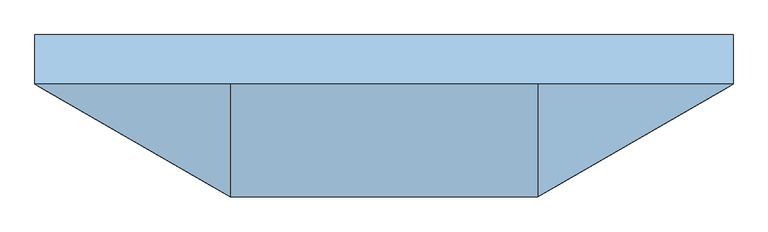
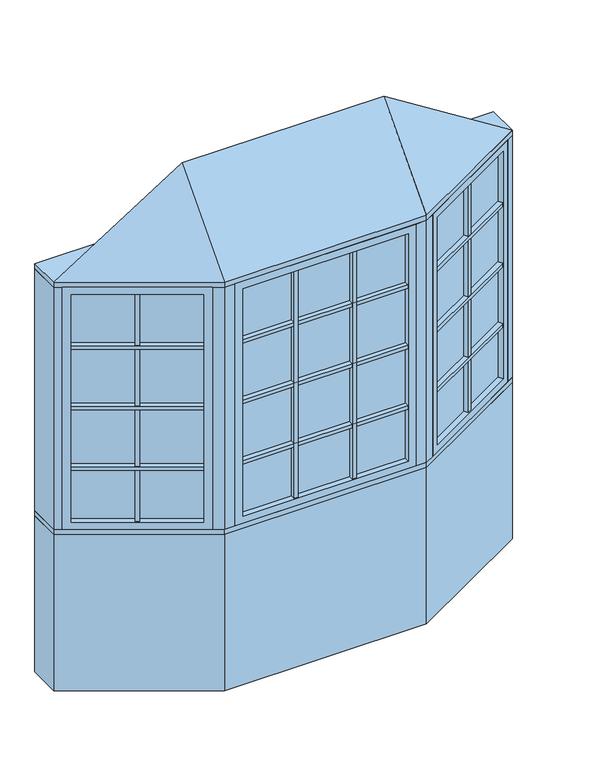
"""IFC4 building model written with IfcOpenShell, lengths in millimetres: window geometry, Pollard_Windows_Tudor Casement Bows and Bays : AML-BAY 30 AFR0612-10-600_GC."""

from ifc_helpers import new_model, si_unit, frame, origin, origin_with_axes, place, context, project, spatial, polyline, outline, extrude, faceted_brep, source, transform, mapped, element, save


def window_d12ae702(model_context):
    return source(origin(), model_context, "Body", "SolidModel", [
        extrude(outline(polyline([(546.881999, -376.6297343), (535.881999, -357.5771754), (1002.1135794, -88.3982469), (1013.1135794, -107.4508058), (546.881999, -376.6297343)])), frame((0.0, 0.0, 1390.998), z_axis=(0.0, 0.0, 1.0), x_axis=(1.0, 0.0, 0.0)), (0.0, 0.0, 1.0), 18.0),
        extrude(outline(polyline([(533.341999, -353.1777664), (522.341999, -334.1252075), (988.5735794, -64.946279), (999.5735794, -83.9988379), (533.341999, -353.1777664)])), frame((0.0, 0.0, 1390.998), z_axis=(0.0, 0.0, 1.0), x_axis=(1.0, 0.0, 0.0)), (0.0, 0.0, 1.0), 18.0),
        extrude(outline(polyline([(546.881999, -376.6297343), (535.881999, -357.5771754), (1002.1135794, -88.3982469), (1013.1135794, -107.4508058), (546.881999, -376.6297343)])), frame((0.0, 0.0, 1090.998), z_axis=(0.0, 0.0, 1.0), x_axis=(1.0, 0.0, 0.0)), (0.0, 0.0, 1.0), 18.0),
        extrude(outline(polyline([(533.341999, -353.1777664), (522.341999, -334.1252075), (988.5735794, -64.946279), (999.5735794, -83.9988379), (533.341999, -353.1777664)])), frame((0.0, 0.0, 1090.998), z_axis=(0.0, 0.0, 1.0), x_axis=(1.0, 0.0, 0.0)), (0.0, 0.0, 1.0), 18.0),
        extrude(outline(polyline([(546.881999, -376.6297343), (535.881999, -357.5771754), (1002.1135794, -88.3982469), (1013.1135794, -107.4508058), (546.881999, -376.6297343)])), frame((0.0, 0.0, 1390.998), z_axis=(0.0, 0.0, 1.0), x_axis=(1.0, 0.0, 0.0)), (0.0, 0.0, 1.0), 18.0),
        extrude(outline(polyline([(533.341999, -353.1777664), (522.341999, -334.1252075), (988.5735794, -64.946279), (999.5735794, -83.9988379), (533.341999, -353.1777664)])), frame((0.0, 0.0, 1390.998), z_axis=(0.0, 0.0, 1.0), x_axis=(1.0, 0.0, 0.0)), (0.0, 0.0, 1.0), 18.0),
        extrude(outline(polyline([(546.881999, -376.6297343), (535.881999, -357.5771754), (1002.1135794, -88.3982469), (1013.1135794, -107.4508058), (546.881999, -376.6297343)])), frame((0.0, 0.0, 1390.998), z_axis=(0.0, 0.0, 1.0), x_axis=(1.0, 0.0, 0.0)), (0.0, 0.0, 1.0), 18.0),
        extrude(outline(polyline([(533.341999, -353.1777664), (522.341999, -334.1252075), (988.5735794, -64.946279), (999.5735794, -83.9988379), (533.341999, -353.1777664)])), frame((0.0, 0.0, 1390.998), z_axis=(0.0, 0.0, 1.0), x_axis=(1.0, 0.0, 0.0)), (0.0, 0.0, 1.0), 18.0),
        extrude(outline(polyline([(546.881999, -376.6297343), (535.881999, -357.5771754), (1002.1135794, -88.3982469), (1013.1135794, -107.4508058), (546.881999, -376.6297343)])), frame((0.0, 0.0, 1690.998), z_axis=(0.0, 0.0, 1.0), x_axis=(1.0, 0.0, 0.0)), (0.0, 0.0, 1.0), 18.0),
        extrude(outline(polyline([(533.341999, -353.1777664), (522.341999, -334.1252075), (988.5735794, -64.946279), (999.5735794, -83.9988379), (533.341999, -353.1777664)])), frame((0.0, 0.0, 1690.998), z_axis=(0.0, 0.0, 1.0), x_axis=(1.0, 0.0, 0.0)), (0.0, 0.0, 1.0), 18.0),
        extrude(outline(polyline([(776.7920178, -218.4877112), (787.7920178, -237.5402701), (772.2035606, -246.5402701), (761.2035606, -227.4877112), (776.7920178, -218.4877112)])), frame((0.0, 0.0, 835.8628), z_axis=(0.0, 0.0, 1.0), x_axis=(1.0, 0.0, 0.0)), (0.0, 0.0, 1.0), 1128.2704),
        extrude(outline(polyline([(774.2520178, -214.0883021), (758.6635606, -223.0883021), (747.6635606, -204.0357432), (763.2520178, -195.0357432), (774.2520178, -214.0883021)])), frame((0.0, 0.0, 835.8628), z_axis=(0.0, 0.0, 1.0), x_axis=(1.0, 0.0, 0.0)), (0.0, 0.0, 1.0), 1128.2704),
        extrude(outline(polyline([(1013.112102, -82.0482469), (524.8834764, -363.9271754), (522.3434764, -359.5277664), (1010.572102, -77.6488379), (1013.112102, -82.0482469)])), frame((0.0, 0.0, 823.1628), z_axis=(0.0, 0.0, 1.0), x_axis=(1.0, 0.0, 0.0)), (0.0, 0.0, 1.0), 1153.6704),
        faceted_brep([(1002.1135794, -88.3982469, 835.8628), (1014.8135794, -110.3952922, 835.8628), (1014.8135794, -110.3952922, 1964.1332), (1002.1135794, -88.3982469, 1964.1332), (1010.572102, -77.6488379, 823.1628), (1013.112102, -82.0482469, 823.1628), (1013.112102, -82.0482469, 1976.8332), (1010.572102, -77.6488379, 1976.8332), (986.8735794, -62.0017926, 835.8628), (999.5735794, -83.9988379, 835.8628), (999.5735794, -83.9988379, 1964.1332), (986.8735794, -62.0017926, 1964.1332), (1045.8734073, -92.4628922, 799.998), (1017.9334073, -44.0693926, 799.998), (1017.9334073, -44.0693926, 1999.998), (1045.8734073, -92.4628922, 1999.998), (548.581999, -379.5742207, 1964.1332), (535.881999, -357.5771754, 1964.1332), (524.8834764, -363.9271754, 1976.8332), (522.3434764, -359.5277664, 1976.8332), (533.341999, -353.1777664, 1964.1332), (520.641999, -331.1807211, 1964.1332), (489.5821711, -349.1131211, 1999.998), (517.5221711, -397.5066207, 1999.998), (548.581999, -379.5742207, 835.8628), (535.881999, -357.5771754, 835.8628), (524.8834764, -363.9271754, 823.1628), (522.3434764, -359.5277664, 823.1628), (533.341999, -353.1777664, 835.8628), (520.641999, -331.1807211, 835.8628), (489.5821711, -349.1131211, 799.998), (517.5221711, -397.5066207, 799.998)], [[[0, 1, 2, 3]], [[4, 5, 6, 7]], [[8, 9, 10, 11]], [[12, 13, 14, 15]], [[3, 2, 16, 17]], [[7, 6, 18, 19]], [[11, 10, 20, 21]], [[15, 14, 22, 23]], [[17, 16, 24, 25]], [[19, 18, 26, 27]], [[21, 20, 28, 29]], [[23, 22, 30, 31]], [[25, 24, 1, 0]], [[5, 26, 18, 6], [3, 17, 25, 0]], [[27, 26, 5, 4]], [[7, 19, 27, 4], [9, 28, 20, 10]], [[29, 28, 9, 8]], [[13, 30, 22, 14], [11, 21, 29, 8]], [[31, 30, 13, 12]], [[15, 23, 31, 12], [1, 24, 16, 2]]]),
        extrude(outline(polyline([(145.6855003, -397.1066207), (145.6855003, -419.1066207), (127.6855003, -419.1066207), (127.6855003, -397.1066207), (145.6855003, -397.1066207)])), frame((0.0, 0.0, 835.8628), z_axis=(0.0, 0.0, 1.0), x_axis=(1.0, 0.0, 0.0)), (0.0, 0.0, 1.0), 1128.2704),
        extrude(outline(polyline([(145.6855003, -392.0266207), (127.6855003, -392.0266207), (127.6855003, -370.0266207), (145.6855003, -370.0266207), (145.6855003, -392.0266207)])), frame((0.0, 0.0, 835.8628), z_axis=(0.0, 0.0, 1.0), x_axis=(1.0, 0.0, 0.0)), (0.0, 0.0, 1.0), 1128.2704),
        extrude(outline(polyline([(-127.6855003, -397.1066207), (-127.6855003, -419.1066207), (-145.6855003, -419.1066207), (-145.6855003, -397.1066207), (-127.6855003, -397.1066207)])), frame((0.0, 0.0, 835.8628), z_axis=(0.0, 0.0, 1.0), x_axis=(1.0, 0.0, 0.0)), (0.0, 0.0, 1.0), 1128.2704),
        extrude(outline(polyline([(-127.6855003, -392.0266207), (-145.6855003, -392.0266207), (-145.6855003, -370.0266207), (-127.6855003, -370.0266207), (-127.6855003, -392.0266207)])), frame((0.0, 0.0, 835.8628), z_axis=(0.0, 0.0, 1.0), x_axis=(1.0, 0.0, 0.0)), (0.0, 0.0, 1.0), 1128.2704),
        extrude(outline(polyline([(-388.3561009, -419.1066207), (-388.3561009, -397.1066207), (388.3561009, -397.1066207), (388.3561009, -419.1066207), (-388.3561009, -419.1066207)])), frame((0.0, 0.0, 1090.998), z_axis=(0.0, 0.0, 1.0), x_axis=(1.0, 0.0, 0.0)), (0.0, 0.0, 1.0), 18.0),
        extrude(outline(polyline([(-388.3561009, -392.0266207), (-388.3561009, -370.0266207), (388.3561009, -370.0266207), (388.3561009, -392.0266207), (-388.3561009, -392.0266207)])), frame((0.0, 0.0, 1090.998), z_axis=(0.0, 0.0, 1.0), x_axis=(1.0, 0.0, 0.0)), (0.0, 0.0, 1.0), 18.0),
        extrude(outline(polyline([(-388.3561009, -419.1066207), (-388.3561009, -397.1066207), (388.3561009, -397.1066207), (388.3561009, -419.1066207), (-388.3561009, -419.1066207)])), frame((0.0, 0.0, 1390.998), z_axis=(0.0, 0.0, 1.0), x_axis=(1.0, 0.0, 0.0)), (0.0, 0.0, 1.0), 18.0),
        extrude(outline(polyline([(-388.3561009, -392.0266207), (-388.3561009, -370.0266207), (388.3561009, -370.0266207), (388.3561009, -392.0266207), (-388.3561009, -392.0266207)])), frame((0.0, 0.0, 1390.998), z_axis=(0.0, 0.0, 1.0), x_axis=(1.0, 0.0, 0.0)), (0.0, 0.0, 1.0), 18.0),
        extrude(outline(polyline([(-388.3561009, -419.1066207), (-388.3561009, -397.1066207), (388.3561009, -397.1066207), (388.3561009, -419.1066207), (-388.3561009, -419.1066207)])), frame((0.0, 0.0, 1390.998), z_axis=(0.0, 0.0, 1.0), x_axis=(1.0, 0.0, 0.0)), (0.0, 0.0, 1.0), 18.0),
        extrude(outline(polyline([(-388.3561009, -392.0266207), (-388.3561009, -370.0266207), (388.3561009, -370.0266207), (388.3561009, -392.0266207), (-388.3561009, -392.0266207)])), frame((0.0, 0.0, 1390.998), z_axis=(0.0, 0.0, 1.0), x_axis=(1.0, 0.0, 0.0)), (0.0, 0.0, 1.0), 18.0),
        extrude(outline(polyline([(-388.3561009, -419.1066207), (-388.3561009, -397.1066207), (388.3561009, -397.1066207), (388.3561009, -419.1066207), (-388.3561009, -419.1066207)])), frame((0.0, 0.0, 1390.998), z_axis=(0.0, 0.0, 1.0), x_axis=(1.0, 0.0, 0.0)), (0.0, 0.0, 1.0), 18.0),
        extrude(outline(polyline([(-388.3561009, -392.0266207), (-388.3561009, -370.0266207), (388.3561009, -370.0266207), (388.3561009, -392.0266207), (-388.3561009, -392.0266207)])), frame((0.0, 0.0, 1390.998), z_axis=(0.0, 0.0, 1.0), x_axis=(1.0, 0.0, 0.0)), (0.0, 0.0, 1.0), 18.0),
        extrude(outline(polyline([(-1013.1135794, -107.4508058), (-1002.1135794, -88.3982469), (-535.881999, -357.5771754), (-546.881999, -376.6297343), (-1013.1135794, -107.4508058)])), frame((0.0, 0.0, 1090.998), z_axis=(0.0, 0.0, 1.0), x_axis=(1.0, 0.0, 0.0)), (0.0, 0.0, 1.0), 18.0),
        extrude(outline(polyline([(-999.5735794, -83.9988379), (-988.5735794, -64.946279), (-522.341999, -334.1252075), (-533.341999, -353.1777664), (-999.5735794, -83.9988379)])), frame((0.0, 0.0, 1090.998), z_axis=(0.0, 0.0, 1.0), x_axis=(1.0, 0.0, 0.0)), (0.0, 0.0, 1.0), 18.0),
        extrude(outline(polyline([(-1013.1135794, -107.4508058), (-1002.1135794, -88.3982469), (-535.881999, -357.5771754), (-546.881999, -376.6297343), (-1013.1135794, -107.4508058)])), frame((0.0, 0.0, 1390.998), z_axis=(0.0, 0.0, 1.0), x_axis=(1.0, 0.0, 0.0)), (0.0, 0.0, 1.0), 18.0),
        extrude(outline(polyline([(-999.5735794, -83.9988379), (-988.5735794, -64.946279), (-522.341999, -334.1252075), (-533.341999, -353.1777664), (-999.5735794, -83.9988379)])), frame((0.0, 0.0, 1390.998), z_axis=(0.0, 0.0, 1.0), x_axis=(1.0, 0.0, 0.0)), (0.0, 0.0, 1.0), 18.0),
        extrude(outline(polyline([(-1013.1135794, -107.4508058), (-1002.1135794, -88.3982469), (-535.881999, -357.5771754), (-546.881999, -376.6297343), (-1013.1135794, -107.4508058)])), frame((0.0, 0.0, 1390.998), z_axis=(0.0, 0.0, 1.0), x_axis=(1.0, 0.0, 0.0)), (0.0, 0.0, 1.0), 18.0),
        extrude(outline(polyline([(-999.5735794, -83.9988379), (-988.5735794, -64.946279), (-522.341999, -334.1252075), (-533.341999, -353.1777664), (-999.5735794, -83.9988379)])), frame((0.0, 0.0, 1390.998), z_axis=(0.0, 0.0, 1.0), x_axis=(1.0, 0.0, 0.0)), (0.0, 0.0, 1.0), 18.0),
        extrude(outline(polyline([(-1013.1135794, -107.4508058), (-1002.1135794, -88.3982469), (-535.881999, -357.5771754), (-546.881999, -376.6297343), (-1013.1135794, -107.4508058)])), frame((0.0, 0.0, 1390.998), z_axis=(0.0, 0.0, 1.0), x_axis=(1.0, 0.0, 0.0)), (0.0, 0.0, 1.0), 18.0),
        extrude(outline(polyline([(-999.5735794, -83.9988379), (-988.5735794, -64.946279), (-522.341999, -334.1252075), (-533.341999, -353.1777664), (-999.5735794, -83.9988379)])), frame((0.0, 0.0, 1390.998), z_axis=(0.0, 0.0, 1.0), x_axis=(1.0, 0.0, 0.0)), (0.0, 0.0, 1.0), 18.0),
        extrude(outline(polyline([(-1013.1135794, -107.4508058), (-1002.1135794, -88.3982469), (-535.881999, -357.5771754), (-546.881999, -376.6297343), (-1013.1135794, -107.4508058)])), frame((0.0, 0.0, 1690.998), z_axis=(0.0, 0.0, 1.0), x_axis=(1.0, 0.0, 0.0)), (0.0, 0.0, 1.0), 18.0),
        extrude(outline(polyline([(-999.5735794, -83.9988379), (-988.5735794, -64.946279), (-522.341999, -334.1252075), (-533.341999, -353.1777664), (-999.5735794, -83.9988379)])), frame((0.0, 0.0, 1690.998), z_axis=(0.0, 0.0, 1.0), x_axis=(1.0, 0.0, 0.0)), (0.0, 0.0, 1.0), 18.0),
        extrude(outline(polyline([(-388.3561009, -419.1066207), (-388.3561009, -397.1066207), (388.3561009, -397.1066207), (388.3561009, -419.1066207), (-388.3561009, -419.1066207)])), frame((0.0, 0.0, 1690.998), z_axis=(0.0, 0.0, 1.0), x_axis=(1.0, 0.0, 0.0)), (0.0, 0.0, 1.0), 18.0),
        extrude(outline(polyline([(-388.3561009, -392.0266207), (-388.3561009, -370.0266207), (388.3561009, -370.0266207), (388.3561009, -392.0266207), (-388.3561009, -392.0266207)])), frame((0.0, 0.0, 1690.998), z_axis=(0.0, 0.0, 1.0), x_axis=(1.0, 0.0, 0.0)), (0.0, 0.0, 1.0), 18.0),
        extrude(outline(polyline([(-761.2035606, -227.4877112), (-772.2035606, -246.5402701), (-787.7920178, -237.5402701), (-776.7920178, -218.4877112), (-761.2035606, -227.4877112)])), frame((0.0, 0.0, 835.8628), z_axis=(0.0, 0.0, 1.0), x_axis=(1.0, 0.0, 0.0)), (0.0, 0.0, 1.0), 1128.2704),
        extrude(outline(polyline([(-758.6635606, -223.0883021), (-774.2520178, -214.0883021), (-763.2520178, -195.0357432), (-747.6635606, -204.0357432), (-758.6635606, -223.0883021)])), frame((0.0, 0.0, 835.8628), z_axis=(0.0, 0.0, 1.0), x_axis=(1.0, 0.0, 0.0)), (0.0, 0.0, 1.0), 1128.2704),
        extrude(outline(polyline([(-524.8834764, -363.9271754), (-1013.112102, -82.0482469), (-1010.572102, -77.6488379), (-522.3434764, -359.5277664), (-524.8834764, -363.9271754)])), frame((0.0, 0.0, 823.1628), z_axis=(0.0, 0.0, 1.0), x_axis=(1.0, 0.0, 0.0)), (0.0, 0.0, 1.0), 1153.6704),
        faceted_brep([(-533.341999, -353.1777664, 1964.1332), (-520.641999, -331.1807211, 1964.1332), (-520.641999, -331.1807211, 835.8628), (-533.341999, -353.1777664, 835.8628), (-524.8834764, -363.9271754, 1976.8332), (-522.3434764, -359.5277664, 1976.8332), (-522.3434764, -359.5277664, 823.1628), (-524.8834764, -363.9271754, 823.1628), (-548.581999, -379.5742207, 1964.1332), (-535.881999, -357.5771754, 1964.1332), (-535.881999, -357.5771754, 835.8628), (-548.581999, -379.5742207, 835.8628), (-489.5821711, -349.1131211, 1999.998), (-517.5221711, -397.5066207, 1999.998), (-517.5221711, -397.5066207, 799.998), (-489.5821711, -349.1131211, 799.998), (-986.8735794, -62.0017926, 835.8628), (-999.5735794, -83.9988379, 835.8628), (-1010.572102, -77.6488379, 823.1628), (-1013.112102, -82.0482469, 823.1628), (-1002.1135794, -88.3982469, 835.8628), (-1014.8135794, -110.3952922, 835.8628), (-1045.8734073, -92.4628922, 799.998), (-1017.9334073, -44.0693926, 799.998), (-986.8735794, -62.0017926, 1964.1332), (-999.5735794, -83.9988379, 1964.1332), (-1010.572102, -77.6488379, 1976.8332), (-1013.112102, -82.0482469, 1976.8332), (-1002.1135794, -88.3982469, 1964.1332), (-1014.8135794, -110.3952922, 1964.1332), (-1045.8734073, -92.4628922, 1999.998), (-1017.9334073, -44.0693926, 1999.998)], [[[0, 1, 2, 3]], [[4, 5, 6, 7]], [[8, 9, 10, 11]], [[12, 13, 14, 15]], [[3, 2, 16, 17]], [[7, 6, 18, 19]], [[11, 10, 20, 21]], [[15, 14, 22, 23]], [[17, 16, 24, 25]], [[19, 18, 26, 27]], [[21, 20, 28, 29]], [[23, 22, 30, 31]], [[15, 23, 31, 12], [1, 24, 16, 2]], [[25, 24, 1, 0]], [[5, 26, 18, 6], [3, 17, 25, 0]], [[27, 26, 5, 4]], [[7, 19, 27, 4], [9, 28, 20, 10]], [[29, 28, 9, 8]], [[13, 30, 22, 14], [11, 21, 29, 8]], [[31, 30, 13, 12]]]),
        extrude(outline(polyline([(401.0561009, -397.1066207), (-401.0561009, -397.1066207), (-401.0561009, -392.0266207), (401.0561009, -392.0266207), (401.0561009, -397.1066207)])), frame((0.0, 0.0, 823.1628), z_axis=(0.0, 0.0, 1.0), x_axis=(1.0, 0.0, 0.0)), (0.0, 0.0, 1.0), 1153.6704),
        faceted_brep([(388.3561009, -397.1066207, 835.8628), (388.3561009, -422.5066207, 835.8628), (388.3561009, -422.5066207, 1964.1332), (388.3561009, -397.1066207, 1964.1332), (401.0561009, -392.0266207, 823.1628), (401.0561009, -397.1066207, 823.1628), (401.0561009, -397.1066207, 1976.8332), (401.0561009, -392.0266207, 1976.8332), (388.3561009, -366.6266207, 835.8628), (388.3561009, -392.0266207, 835.8628), (388.3561009, -392.0266207, 1964.1332), (388.3561009, -366.6266207, 1964.1332), (424.2209009, -422.5066207, 799.998), (424.2209009, -366.6266207, 799.998), (424.2209009, -366.6266207, 1999.998), (424.2209009, -422.5066207, 1999.998), (-388.3561009, -422.5066207, 1964.1332), (-388.3561009, -397.1066207, 1964.1332), (-401.0561009, -397.1066207, 1976.8332), (-401.0561009, -392.0266207, 1976.8332), (-388.3561009, -392.0266207, 1964.1332), (-388.3561009, -366.6266207, 1964.1332), (-424.2209009, -366.6266207, 1999.998), (-424.2209009, -422.5066207, 1999.998), (-388.3561009, -422.5066207, 835.8628), (-388.3561009, -397.1066207, 835.8628), (-401.0561009, -397.1066207, 823.1628), (-401.0561009, -392.0266207, 823.1628), (-388.3561009, -392.0266207, 835.8628), (-388.3561009, -366.6266207, 835.8628), (-424.2209009, -366.6266207, 799.998), (-424.2209009, -422.5066207, 799.998)], [[[0, 1, 2, 3]], [[4, 5, 6, 7]], [[8, 9, 10, 11]], [[12, 13, 14, 15]], [[3, 2, 16, 17]], [[7, 6, 18, 19]], [[11, 10, 20, 21]], [[15, 14, 22, 23]], [[17, 16, 24, 25]], [[19, 18, 26, 27]], [[21, 20, 28, 29]], [[23, 22, 30, 31]], [[15, 23, 31, 12], [1, 24, 16, 2]], [[25, 24, 1, 0]], [[5, 26, 18, 6], [3, 17, 25, 0]], [[27, 26, 5, 4]], [[7, 19, 27, 4], [9, 28, 20, 10]], [[29, 28, 9, 8]], [[13, 30, 22, 14], [11, 21, 29, 8]], [[31, 30, 13, 12]]]),
        faceted_brep([(1076.5, -74.7806207, 2025.398), (474.2209009, -422.5066207, 2025.398), (-474.2209009, -422.5066207, 2025.398), (-1076.5, -74.7806207, 2025.398), (-474.2209009, -74.7806207, 2406.398), (474.2209009, -74.7806207, 2406.398)], [[[0, 1, 2, 3]], [[3, 2, 4]], [[2, 1, 5, 4]], [[1, 0, 5]], [[0, 3, 4, 5]]]),
        extrude(outline(polyline([(-1076.5, 77.6193793), (1076.5, 77.6193793), (1076.5, -74.7806207), (474.2209009, -422.5066207), (-474.2209009, -422.5066207), (-1076.5, -74.7806207), (-1076.5, 77.6193793)])), frame((0.0, 0.0, 1999.998), z_axis=(0.0, 0.0, 1.0), x_axis=(1.0, 0.0, 0.0)), (0.0, 0.0, 1.0), 25.4),
        extrude(outline(polyline([(-1076.5, -74.7806207), (-1076.5, 77.6193793), (-1035.6645431, 77.6193793), (-1035.6645431, -74.7806207), (-1045.8734073, -92.4628922), (-1076.5, -74.7806207)])), frame((0.0, 0.0, 799.998), z_axis=(0.0, 0.0, 1.0), x_axis=(1.0, 0.0, 0.0)), (0.0, 0.0, 1.0), 1200.0),
        extrude(outline(polyline([(1076.5, 77.6193793), (1076.5, -74.7806207), (1045.8734073, -92.4628922), (1035.6645431, -74.7806207), (1035.6645431, 77.6193793), (1076.5, 77.6193793)])), frame((0.0, 0.0, 799.998), z_axis=(0.0, 0.0, 1.0), x_axis=(1.0, 0.0, 0.0)), (0.0, 0.0, 1.0), 1200.0),
        extrude(outline(polyline([(474.2209009, -422.5066207), (424.2209009, -422.5066207), (424.2209009, -372.5066207), (460.8234413, -372.5066207), (492.5221711, -354.2053505), (517.5221711, -397.5066207), (474.2209009, -422.5066207)])), frame((0.0, 0.0, 799.998), z_axis=(0.0, 0.0, 1.0), x_axis=(1.0, 0.0, 0.0)), (0.0, 0.0, 1.0), 1200.0),
        extrude(outline(polyline([(-474.2209009, -422.5066207), (-517.5221711, -397.5066207), (-492.5221711, -354.2053505), (-460.8234413, -372.5066207), (-424.2209009, -372.5066207), (-424.2209009, -422.5066207), (-474.2209009, -422.5066207)])), frame((0.0, 0.0, 799.998), z_axis=(0.0, 0.0, 1.0), x_axis=(1.0, 0.0, 0.0)), (0.0, 0.0, 1.0), 1200.0),
        extrude(outline(polyline([(-474.2209009, -422.5066207), (-1076.5, -74.7806207), (-1076.5, 77.6193793), (-1035.6645431, 77.6193793), (-433.385444, -270.1066207), (433.385444, -270.1066207), (1035.6645431, 77.6193793), (1076.5, 77.6193793), (1076.5, -74.7806207), (474.2209009, -422.5066207), (-474.2209009, -422.5066207)])), frame((0.0, 0.0, 774.598), z_axis=(0.0, 0.0, 1.0), x_axis=(1.0, 0.0, 0.0)), (0.0, 0.0, 1.0), 25.4),
        extrude(outline(polyline([(-1076.5, -74.7806207), (-1076.5, 77.6193793), (-1035.6645431, 77.6193793), (-433.385444, -270.1066207), (433.385444, -270.1066207), (1035.6645431, 77.6193793), (1076.5, 77.6193793), (1076.5, -74.7806207), (474.2209009, -422.5066207), (-474.2209009, -422.5066207), (-1076.5, -74.7806207)])), origin_with_axes(), (0.0, 0.0, 1.0), 774.598),
    ])


if __name__ == "__main__":
    model = new_model("IFC4")
    model_context = context("Model", 3, world=origin())
    ifc_project = project(units=[si_unit("LENGTHUNIT", "METRE", prefix="MILLI")], contexts=[model_context])
    site = spatial("IfcSite", under=ifc_project)
    building = spatial("IfcBuilding", under=site)
    placement = place(None, origin())
    window_shape = window_d12ae702(model_context)
    element("IfcWindow", 1, ObjectType="Pollard_Windows_Tudor Casement Bows and Bays : AML-BAY 30 AFR0612-10-600_GC", at=placement, inside=building, context=model_context, shape_type="MappedRepresentation", body=[
        mapped(window_shape, transform((0.0, 0.0, 0.0), x_axis=(1.0, 0.0, 0.0), y_axis=(0.0, 1.0, 0.0), z_axis=(0.0, 0.0, 1.0))),
    ])
    save(model, "model.ifc")
